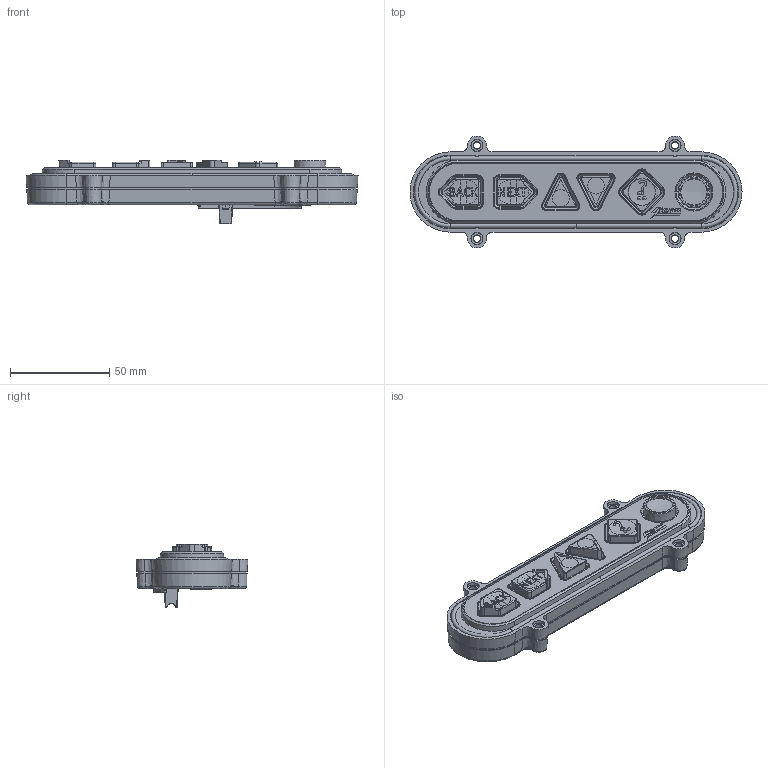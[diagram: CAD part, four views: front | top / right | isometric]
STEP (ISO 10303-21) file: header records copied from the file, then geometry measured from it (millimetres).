
FILE_DESCRIPTION (( 'STEP AP214' ), '1' );
FILE_NAME ('Nav-Bar Mini Module.STEP', '2019-11-27T14:57:12', ( '' ), ( '' ), 'SwSTEP 2.0', 'SolidWorks 2018', '' );
FILE_SCHEMA (( 'AUTOMOTIVE_DESIGN' ));
Length unit declared in the file: millimetre
Products named in the file (57): 000-LAB-25~1; 000-SCR-64~1; 000-SEAL-29~1_Mini Nav Bar; EZA-08-91E~1; 000-LED-42~1; EZD-08-91K~3_LASED ''BACK'' ADDED; 000-CON-192~1; 000-SW-08~1; 000-SEAL-29~1; 000-XTL-109~1; 154-06-07~1; EZC-08-91A~2; EZE-08-91N~1_Lased Question Mark; 000-LED-45~1; 000-LED-44~1; 154-LAB-01~2; 154-06-82~1; EZD-08-91K~3; 154-00-52~1; 154-06-08~1; EZD-08-91K~3_Lased NEXT added; Nav-Bar Mini Module; 154-06-06~1; EZE-08-91N~1
Assembly tree (24 placements, depth 3):
  000-SCR-64~1
  000-LED-42~1
  000-SW-08~1
  000-SEAL-29~1
  000-SCR-64~1
Bounding box: 167.6 x 56.46 x 32.25 mm (x, y, z)
Volume: 56502.5 mm3; surface area: 71589.5 mm2
Topology: 51 solids, 51 shells, 3433 faces, 9119 edges, 5866 vertices
Faces by surface type: plane 1805, cylinder 557, cone 425, bspline 393, torus 209, sphere 44
Full cylindrical faces by diameter (mm): 1.5 x1, 1.8 x6, 2 x3, 2.4 x7, 4.5 x3, 5.3 x7, 7 x1, 19.2 x2
Entity records: 133480 total; most frequent: CARTESIAN_POINT 44796, ORIENTED_EDGE 17526, DIRECTION 15375, EDGE_CURVE 8763, VERTEX_POINT 5710, LINE 5195, VECTOR 5195, AXIS2_PLACEMENT_3D 5090
